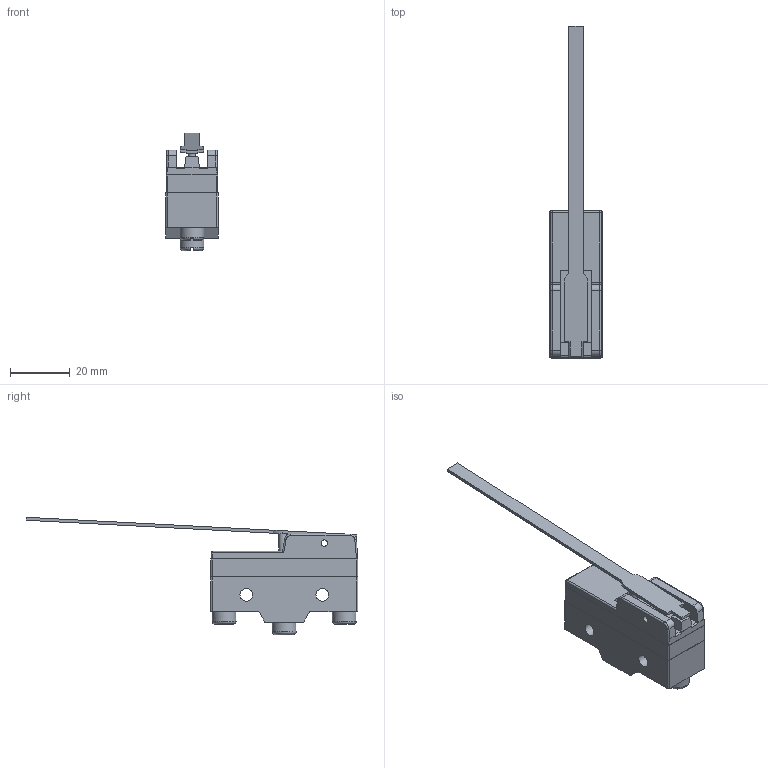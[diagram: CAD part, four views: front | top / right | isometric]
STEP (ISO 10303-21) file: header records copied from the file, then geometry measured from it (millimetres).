
FILE_DESCRIPTION(/* description */ (''),/* implementation_level */ '2;1');
FILE_NAME(/* name */ 'E:\Inventor 2016\제품 외형도\(\X2\C644B8CC\X0\) 리미트 스위치\직류용 마이크로 스위치 (Z형)\YSl2310GW-B.stp',/* time_stamp */ '2019-04-09T10:04:56+09:00',/* author */ ('Kim'),/* organization */ (''),/* preprocessor_version */ 'ST-DEVELOPER v16.1',/* originating_system */ 'Autodesk Inventor 2016',/* authorisation */ '');
FILE_SCHEMA (('AUTOMOTIVE_DESIGN { 1 0 10303 214 3 1 1 }'));
Length unit declared in the file: millimetre
Products named in the file (1): YSl2310GW-B
Bounding box: 17.5 x 110.82 x 39.22 mm (x, y, z)
Volume: 19367.2 mm3; surface area: 7601.1 mm2
Topology: 1 solids, 1 shells, 138 faces, 360 edges, 231 vertices
Faces by surface type: plane 88, cylinder 38, torus 10, sphere 2
Full cylindrical faces by diameter (mm): 2.1 x2, 2.5 x1, 4.2 x2, 8 x3
Entity records: 4320 total; most frequent: CARTESIAN_POINT 822, DIRECTION 709, ORIENTED_EDGE 696, EDGE_CURVE 348, LINE 241, VECTOR 241, AXIS2_PLACEMENT_3D 234, VERTEX_POINT 227
